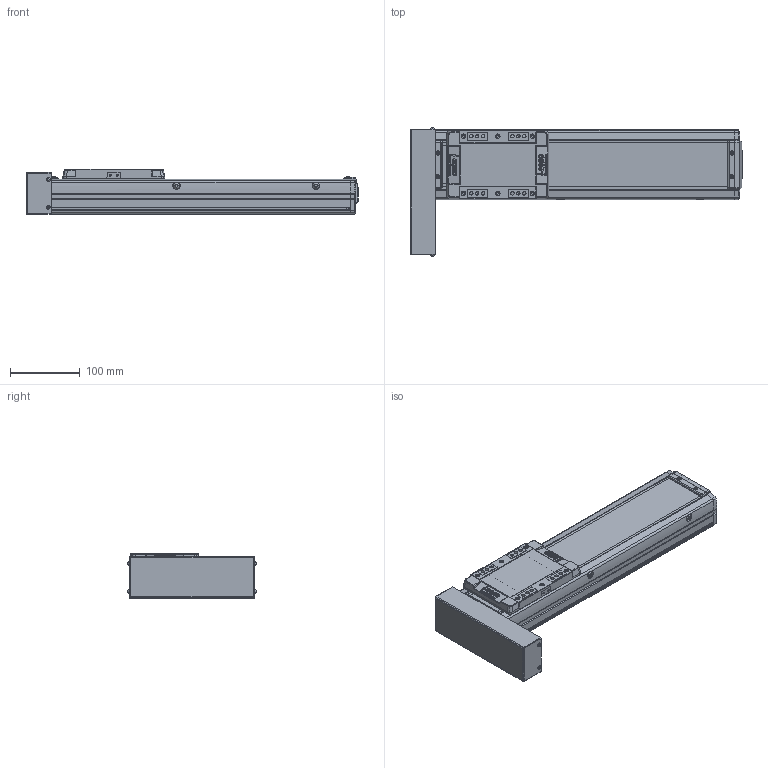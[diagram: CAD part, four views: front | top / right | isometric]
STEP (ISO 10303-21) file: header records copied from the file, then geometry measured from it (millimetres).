
FILE_DESCRIPTION(('STEP AP214'),'1');
FILE_NAME('Z:/Web/3D/SAN100/SAN100 양산용 (STEP)/SAN100ㅁㅁ-250PR.stp','2013-04-25T04:12:08',(' '),(' '),'Spatial InterOp 3D',' ',' ');
FILE_SCHEMA(('automotive_design'));
Length unit declared in the file: millimetre
Products named in the file (31): BTCV-SAN65; BHCS M3 X 6L; SUS COVER; SFX-SAN100; RRCV-SAN100; 스크루 : Round - M4.0 x 10.0; M3.0 x 6.0; 스크루 : Round - M3.0 x 6.0; FRBL-SAN100; SLBL-SAN100; SLCV-SAN100; 스크루 : Countersunk - M3.0 x 6.0; BASE; 스크루 : Round - M5.0 x 6.0
Bounding box: 476.5 x 184.13 x 66 mm (x, y, z)
Volume: 1668269.9 mm3; surface area: 383806 mm2
Topology: 31 solids, 32 shells, 1836 faces, 4784 edges, 3081 vertices
Faces by surface type: plane 925, cylinder 675, cone 158, sphere 44, torus 18, bspline 16
Entity records: 72354 total; most frequent: CARTESIAN_POINT 10942, DIRECTION 10083, ORIENTED_EDGE 9412, EDGE_CURVE 4706, AXIS2_PLACEMENT_3D 3603, VERTEX_POINT 3081, LINE 2877, VECTOR 2877
